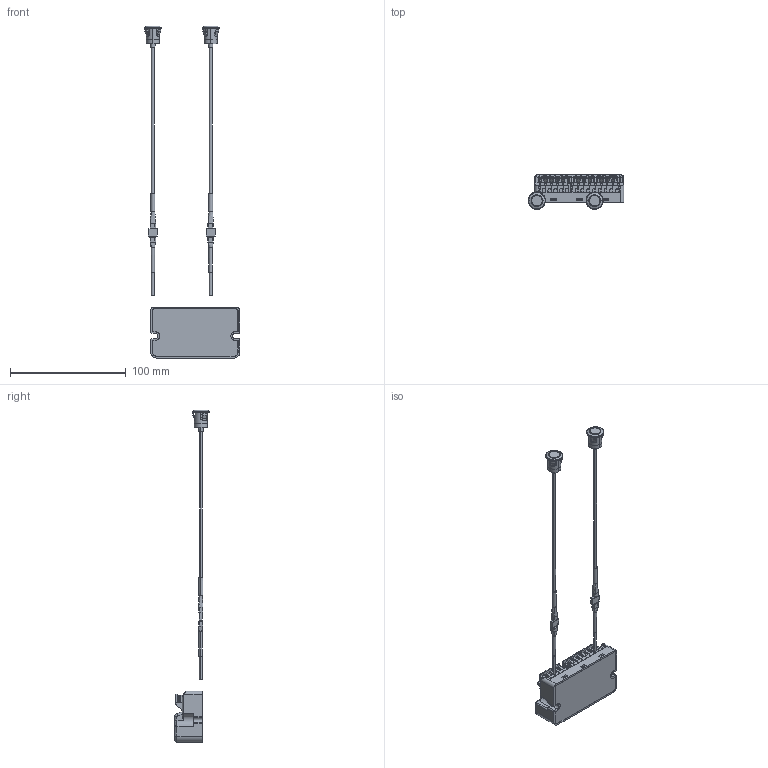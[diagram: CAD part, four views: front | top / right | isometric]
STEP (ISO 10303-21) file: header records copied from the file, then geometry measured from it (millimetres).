
FILE_DESCRIPTION (( 'STEP AP214' ), '1' );
FILE_NAME ('ADS-SE2.STEP', '2019-06-17T23:32:14', ( '' ), ( '' ), 'SwSTEP 2.0', 'SolidWorks 2018', '' );
FILE_SCHEMA (( 'AUTOMOTIVE_DESIGN' ));
Length unit declared in the file: millimetre
Products named in the file (1): ADS-SE2
Bounding box: 82.68 x 30.44 x 287.08 mm (x, y, z)
Volume: 67372.5 mm3; surface area: 31919.5 mm2
Topology: 7 solids, 9 shells, 2164 faces, 6050 edges, 4003 vertices
Faces by surface type: plane 1359, cylinder 365, bspline 284, cone 150, torus 6
Entity records: 87762 total; most frequent: CARTESIAN_POINT 31510, ORIENTED_EDGE 12092, DIRECTION 9415, EDGE_CURVE 6046, VERTEX_POINT 4003, VECTOR 3977, LINE 3977, AXIS2_PLACEMENT_3D 2719
